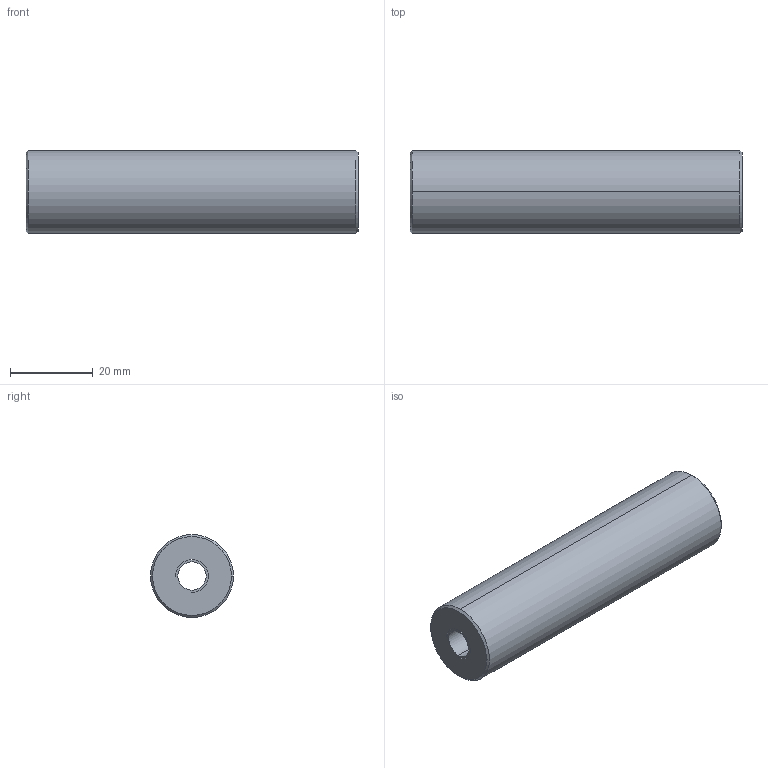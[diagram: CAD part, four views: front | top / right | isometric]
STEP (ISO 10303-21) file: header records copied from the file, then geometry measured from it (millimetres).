
FILE_DESCRIPTION (( 'STEP AP203' ), '1' );
FILE_NAME ('022 Douille de Guidage.STEP', '2021-10-27T18:25:16', ( '' ), ( '' ), 'SwSTEP 2.0', 'SolidWorks 2019', '' );
FILE_SCHEMA (( 'CONFIG_CONTROL_DESIGN' ));
Length unit declared in the file: millimetre
Products named in the file (1): 022 Douille de Guidage
Bounding box: 80 x 20 x 20 mm (x, y, z)
Volume: 10942.9 mm3; surface area: 9536.1 mm2
Topology: 1 solids, 1 shells, 23 faces, 60 edges, 39 vertices
Faces by surface type: cylinder 10, bspline 8, plane 5
Entity records: 835 total; most frequent: CARTESIAN_POINT 179, DIRECTION 128, ORIENTED_EDGE 120, EDGE_CURVE 60, AXIS2_PLACEMENT_3D 52, VERTEX_POINT 39, CIRCLE 36, EDGE_LOOP 27
